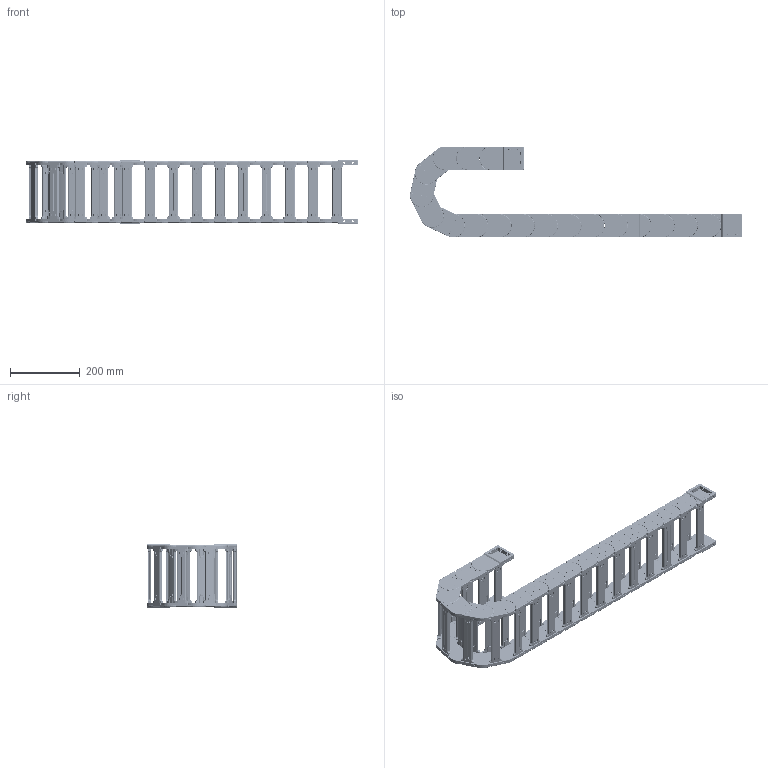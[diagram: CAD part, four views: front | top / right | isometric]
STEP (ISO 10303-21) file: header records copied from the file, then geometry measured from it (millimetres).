
FILE_DESCRIPTION (( 'STEP AP214' ), '1' );
FILE_NAME ('J45Q.1.154S-3D賦凳芞.STEP', '2019-01-10T00:13:32', ( 'Sky123.Org' ), ( 'Sky123.Org' ), 'SwSTEP 2.0', 'SolidWorks 2017', '' );
FILE_SCHEMA (( 'AUTOMOTIVE_DESIGN' ));
Length unit declared in the file: millimetre
Products named in the file (10): 5-N45X75-源諉俋; 45-N源諉芛俋; 5-N45X75-源諉囀; 45-臏簽1; 45-N源諉芛囀; 5-N45X100-1; J45.1結え; 45-崝Ч翋极2; 45-崝Ч翋极1-R250; J45Q.1.154S-3D賦凳芞
Assembly tree (55 placements, depth 3):
  J45Q.1.154S-3D賦凳芞
    5-N45X100-1  x17
      45-崝Ч翋极1-R250
      45-崝Ч翋极2
      J45.1結え
    5-N45X75-源諉囀
      45-N源諉芛囀  x2
      J45.1結え  x2
      45-臏簽1  x12
    5-N45X75-源諉俋
      45-N源諉芛俋  x2
      J45.1結え  x2
      45-臏簽1  x12
Bounding box: 954.91 x 261 x 183 mm (x, y, z)
Volume: 3159731.9 mm3; surface area: 1321053.3 mm2
Topology: 100 solids, 100 shells, 20080 faces, 51658 edges, 31520 vertices
Faces by surface type: plane 7348, cylinder 6440, bspline 3788, torus 1508, sphere 768, cone 228
Entity records: 33152 total; most frequent: CARTESIAN_POINT 10875, ORIENTED_EDGE 4608, DIRECTION 4494, EDGE_CURVE 2304, AXIS2_PLACEMENT_3D 1615, VERTEX_POINT 1438, LINE 1264, VECTOR 1264
